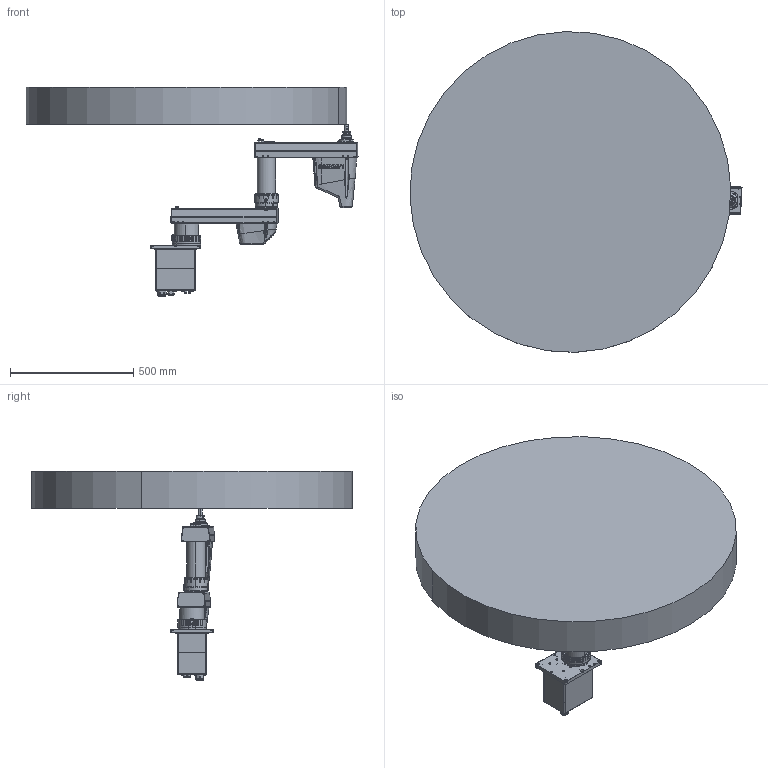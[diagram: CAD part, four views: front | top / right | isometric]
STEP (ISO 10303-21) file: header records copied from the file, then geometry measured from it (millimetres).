
FILE_DESCRIPTION (( 'STEP AP214' ), '1' );
FILE_NAME ('ST5-R650 衄LOGO湍堍雄毓峓2017.STEP', '2024-01-26T04:27:15', ( '' ), ( '' ), 'SwSTEP 2.0', 'SolidWorks 2017', '' );
FILE_SCHEMA (( 'AUTOMOTIVE_DESIGN' ));
Length unit declared in the file: millimetre
Products named in the file (6): ST5-R650 衄LOGO湍堍雄毓峓2017; 葩璃 ST5-R650-03   苤旋窒煦ㄗ衄logoㄘ^ST5-R650 衄LOGO湍堍雄毓峓2017; 复件 ST5-R650运动范围^ST5-R650 有LOGO带运动范围2017; 复件 ST5-R650-02 J2部分^ST5-R650 有LOGO带运动范围2017; 复件 丝杆^ST5-R650 有LOGO带运动范围2017; 复件 ST5-R650-01   J1部分^ST5-R650 有LOGO带运动范围2017
Assembly tree (5 placements, depth 2):
  ST5-R650 衄LOGO湍堍雄毓峓2017
    复件 ST5-R650-01   J1部分^ST5-R650 有LOGO带运动范围2017
    复件 ST5-R650-02 J2部分^ST5-R650 有LOGO带运动范围2017
    葩璃 ST5-R650-03   苤旋窒煦ㄗ衄logoㄘ^ST5-R650 衄LOGO湍堍雄毓峓2017
    复件 丝杆^ST5-R650 有LOGO带运动范围2017
    复件 ST5-R650运动范围^ST5-R650 有LOGO带运动范围2017
Bounding box: 1345.11 x 1299.42 x 848.5 mm (x, y, z)
Volume: 207868091.5 mm3; surface area: 4376818.8 mm2
Topology: 42 solids, 79 shells, 5055 faces, 12659 edges, 8065 vertices
Faces by surface type: plane 1916, cylinder 1398, cone 972, bspline 653, torus 112, sphere 4
Entity records: 235434 total; most frequent: CARTESIAN_POINT 107604, ORIENTED_EDGE 24896, DIRECTION 23168, EDGE_CURVE 12449, AXIS2_PLACEMENT_3D 8509, VERTEX_POINT 8061, VECTOR 6150, LINE 6150
